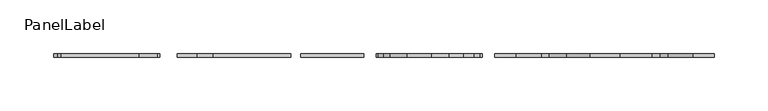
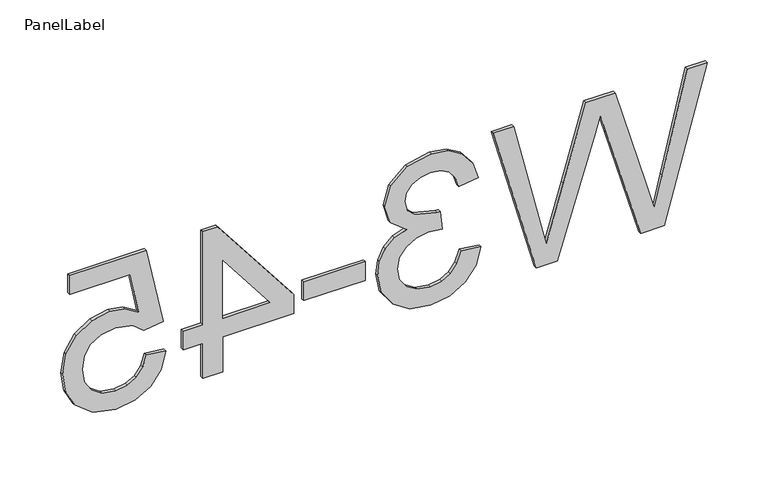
"""IFC4 building model written with IfcOpenShell, lengths in millimetres: fastener geometry, PanelLabel : Miranda."""

from ifc_helpers import new_model, si_unit, frame, origin, place, context, project, spatial, polyline, outline, extrude, source, transform, mapped, element, save


def panellabel_cd900fcb(model_context):
    return source(origin(), model_context, "Body", "SweptSolid", [
        extrude(outline(polyline([(1310.9113766, 268.5683654), (1460.9667612, 309.4892308), (1460.9667612, 290.1461538), (1362.3463766, 266.4069231), (1331.9030112, 259.08), (1358.8294535, 251.2401923), (1460.9667612, 221.4928846), (1460.9667612, 193.6139423), (1386.9282035, 171.9995192), (1331.9030112, 155.9169231), (1361.4671458, 148.8098077), (1460.9667612, 124.8507692), (1460.9667612, 105.5076923), (1310.9113766, 146.4651923), (1310.9113766, 166.5043269), (1426.6767612, 202.4795192), (1442.8326266, 207.4984615), (1423.3796458, 213.1401923), (1310.9113766, 245.9281731), (1310.9113766, 268.5683654)])), frame((0.0, 100.80625, 0.0), z_axis=(0.0, 1.0, 0.0), x_axis=(0.0, 0.0, 1.0)), (0.0, 0.0, 1.0), 3.175),
        extrude(outline(polyline([(1350.7698381, 93.7846154), (1353.1144535, 75.0276923), (1341.327266, 70.8284495), (1333.3683958, 64.6784135), (1328.8348622, 56.2753486), (1327.3236843, 45.3170192), (1329.4026987, 32.4582692), (1335.639742, 22.5302885), (1344.9449343, 16.1833413), (1356.2283958, 14.0676923), (1366.9394415, 16.165024), (1375.6264247, 22.4570192), (1381.3826386, 31.9820192), (1383.3013766, 43.7783654), (1381.2498381, 56.9301923), (1400.0067612, 54.8420192), (1399.7869535, 51.8379808), (1405.172242, 30.5532692), (1412.0045977, 23.4644712), (1421.7310881, 21.1015385), (1429.8319174, 22.8142067), (1436.4032516, 27.9522115), (1440.7581915, 35.7920192), (1442.2098381, 45.6100962), (1440.7444535, 55.4464904), (1436.3482997, 63.4877885), (1429.0213766, 69.3584856), (1418.7636843, 72.6830769), (1421.1082997, 91.44), (1437.9510641, 85.9173317), (1450.5258958, 76.0900962), (1458.3565448, 62.6451923), (1460.9667612, 46.2695192), (1455.8195977, 23.6476442), (1441.7519054, 7.8214904), (1422.8301266, 2.3446154), (1405.5385881, 7.5467308), (1393.1194535, 22.9332692), (1388.3752708, 11.191875), (1380.2973381, 2.4911538), (1369.3252708, -2.8941346), (1355.8986843, -4.6892308), (1337.6180112, -1.0990385), (1322.3413766, 9.6715385), (1312.010415, 25.928149), (1308.5667612, 45.9764423), (1311.5066891, 64.1105769), (1320.3264727, 78.8743269), (1333.8171698, 89.1411779), (1350.7698381, 93.7846154)])), frame((0.0, 100.80625, 0.0), z_axis=(0.0, 1.0, 0.0), x_axis=(0.0, 0.0, 1.0)), (0.0, 0.0, 1.0), 3.175),
        extrude(outline(polyline([(-75.0276923, 103.98125), (-16.4123077, 103.98125), (-16.4123077, 100.80625), (-75.0276923, 100.80625), (-75.0276923, 103.98125)])), frame((0.0, 0.0, 1355.4590689), z_axis=(0.0, 0.0, 1.0), x_axis=(1.0, 0.0, 0.0)), (0.0, 0.0, 1.0), 18.7569231),
        extrude(outline(polyline([(1310.9113766, -152.4), (1346.0806073, -152.4), (1346.0806073, -84.4061538), (1364.8375304, -84.4061538), (1458.6221458, -157.0892308), (1458.6221458, -171.1569231), (1364.8375304, -171.1569231), (1364.8375304, -189.9138462), (1346.0806073, -189.9138462), (1346.0806073, -171.1569231), (1310.9113766, -171.1569231), (1310.9113766, -152.4)]), holes=[polyline([(1364.8375304, -152.4), (1422.793492, -152.4), (1364.8375304, -107.4859615), (1364.8375304, -152.4)])]), frame((0.0, 100.80625, 0.0), z_axis=(0.0, 1.0, 0.0), x_axis=(0.0, 0.0, 1.0)), (0.0, 0.0, 1.0), 3.175),
        extrude(outline(polyline([(1350.7698381, -206.3261538), (1353.1144535, -225.0830769), (1341.8538886, -228.5267308), (1333.7896939, -234.5348077), (1328.9401867, -243.0798317), (1327.3236843, -254.1343269), (1329.5721338, -267.5792308), (1336.3174823, -277.65375), (1346.7812444, -283.9457452), (1360.1849343, -286.0430769), (1372.8055593, -284.0785457), (1382.4587804, -278.1849519), (1388.5859198, -268.3165024), (1390.6282997, -254.4274038), (1387.3678189, -237.9601442), (1378.9052227, -227.4276923), (1381.2498381, -208.6707692), (1458.6221458, -225.0830769), (1458.6221458, -297.7661538), (1439.8652227, -297.7661538), (1439.8652227, -240.2498077), (1398.5413766, -232.2268269), (1406.6742612, -245.6259375), (1409.3852227, -259.6661538), (1406.0239968, -277.191238), (1395.9403189, -291.7397596), (1380.5720977, -301.5349399), (1361.357242, -304.8), (1342.6003189, -301.8600721), (1326.5543573, -293.0402885), (1313.0636602, -276.1517308), (1308.5667612, -254.0610577), (1311.4563165, -235.6384255), (1320.1249823, -220.9616827), (1333.5653069, -210.9009014), (1350.7698381, -206.3261538)])), frame((0.0, 100.80625, 0.0), z_axis=(0.0, 1.0, 0.0), x_axis=(0.0, 0.0, 1.0)), (0.0, 0.0, 1.0), 3.175),
    ])


if __name__ == "__main__":
    model = new_model("IFC4")
    model_context = context("Model", 3, world=origin())
    ifc_project = project(units=[si_unit("LENGTHUNIT", "METRE", prefix="MILLI")], contexts=[model_context])
    site = spatial("IfcSite", under=ifc_project)
    building = spatial("IfcBuilding", under=site)
    placement = place(None, origin())
    panellabel_shape = panellabel_cd900fcb(model_context)
    element("IfcFastener", 1, ObjectType="PanelLabel : Miranda", at=placement, inside=building, context=model_context, shape_type="MappedRepresentation", body=[
        mapped(panellabel_shape, transform((0.0, 0.0, 0.0), x_axis=(1.0, 0.0, 0.0), y_axis=(0.0, 1.0, 0.0), z_axis=(0.0, 0.0, 1.0))),
    ])
    save(model, "model.ifc")
